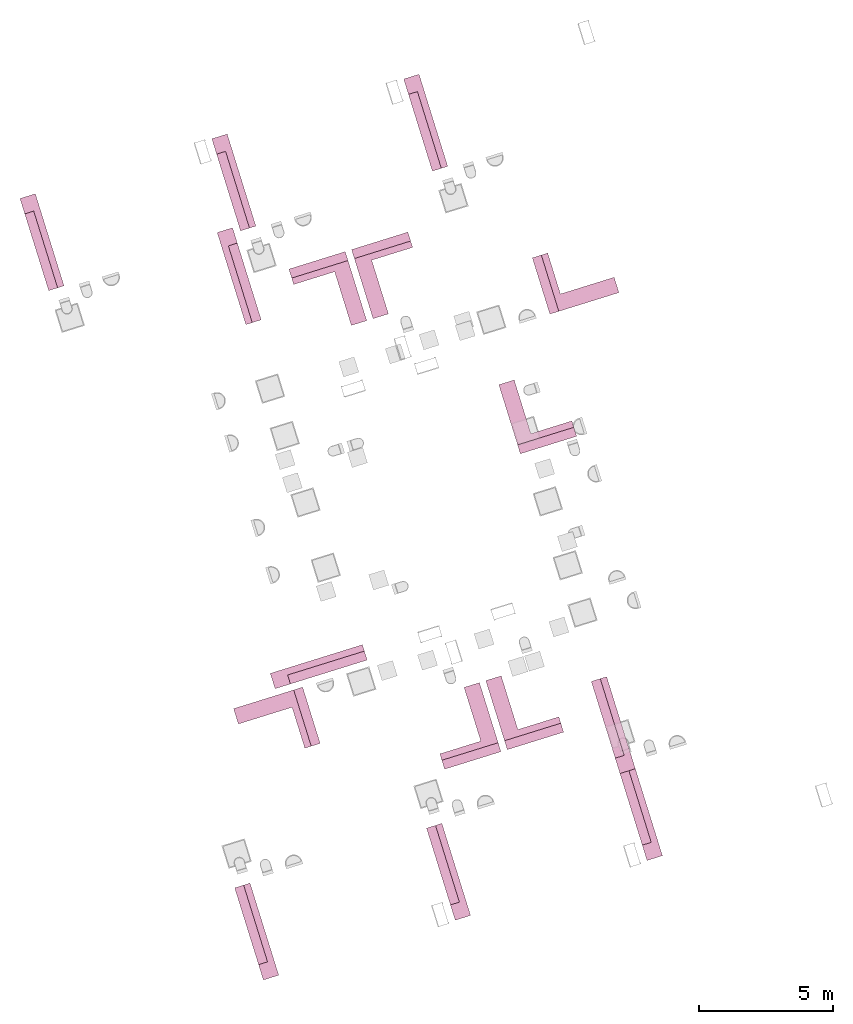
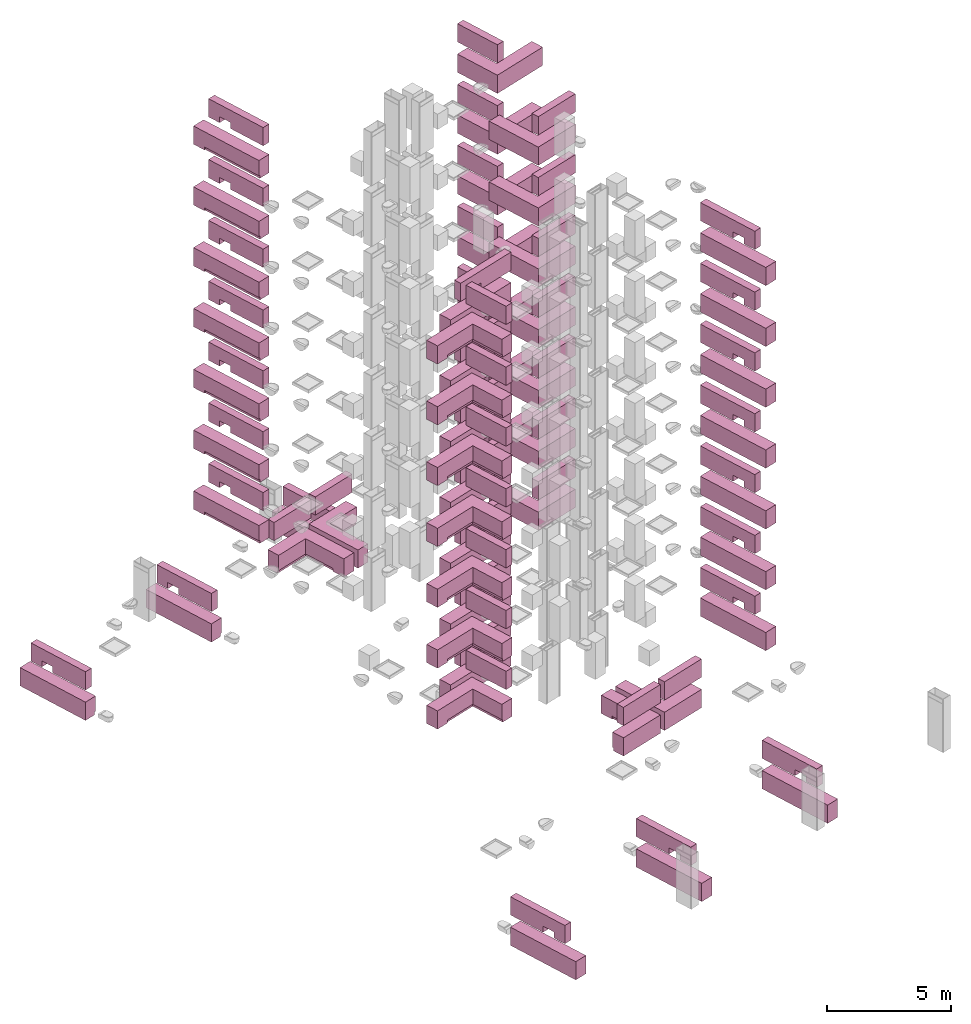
# Not in any storey, part 20 of 20: 52 furniture elements.
"""IFC4 model written with IfcOpenShell, lengths in metres."""

from ifc_helpers import new_model, entity, si_unit, converted_unit, direction, frame, origin, place, context, subcontext, project, indexed_curve, outline, extrude, polygons, source, transform, mapped, material, type_object, type_shapes, element, save


model = new_model("IFC4")

# Units and contexts
model_context = context("Model", 3, precision=1e-05, world=origin(), true_north=direction((6.12323399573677e-17, 1.0)))
body_context = subcontext(model_context, "Body", "Model", "MODEL_VIEW")
ifc_project = project(units=[si_unit("LENGTHUNIT", "METRE"), si_unit("AREAUNIT", "SQUARE_METRE"), si_unit("VOLUMEUNIT", "CUBIC_METRE"), converted_unit("PLANEANGLEUNIT", "DEGREE", entity("IfcPlaneAngleMeasure", 0.0174532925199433), si_unit("PLANEANGLEUNIT", "RADIAN"), dimensions=[0, 0, 0, 0, 0, 0, 0])], contexts=[model_context])

# Furniture
ifc_material = material(Name="<Unnamed>")
furniture_type_1 = type_object("IfcFurnitureType", Name="NLRS_73_CASE_LB_keukenblok L a_gen:keukenblok hoek 2700x2100", AssemblyPlace="NOTDEFINED", PredefinedType="NOTDEFINED", material=ifc_material)
shared_shape_1 = source(origin(), body_context, "Body", "Tessellation", [
    polygons([(0.549999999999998, 2.2, 0.0), (-1.75965908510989e-15, 2.2, 0.0), (-1.75965908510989e-15, 2.2, 0.899999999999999), (0.599999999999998, 2.2, 0.899999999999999), (0.599999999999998, 2.2, 0.15), (0.549999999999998, 2.2, 0.15), (0.55, 0.550000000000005, 0.0), (2.1, 0.550000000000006, 0.0), (2.1, 5.88809001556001e-15, 0.0), (-4.28634905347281e-16, 4.74882355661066e-15, 0.0), (-4.45554704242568e-16, 4.78266315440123e-15, 0.899999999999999), (2.1, 5.92192961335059e-15, 0.899999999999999), (2.1, 0.600000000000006, 0.899999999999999), (0.6, 0.600000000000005, 0.899999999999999), (0.6, 0.600000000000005, 0.15), (2.1, 0.550000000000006, 0.15), (2.1, 0.600000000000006, 0.15), (0.55, 0.550000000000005, 0.15)], [[[1, 2, 3, 4, 5, 6]], [[2, 1, 7, 8, 9, 10]], [[3, 2, 10, 11]], [[4, 3, 11, 12, 13, 14]], [[5, 4, 14, 15]], [[8, 16, 17, 13, 12, 9]], [[11, 10, 9, 12]], [[15, 14, 13, 17]], [[6, 5, 15, 17, 16, 18]], [[1, 6, 18, 7]], [[7, 18, 16, 8]]], closed=True),
    polygons([(2.7, 0.0, 0.899999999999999), (2.7, 0.599999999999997, 0.899999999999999), (2.1, 0.599999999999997, 0.899999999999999), (2.1, 0.0, 0.899999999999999), (2.7, 0.0, 0.0), (2.1, 0.0, 0.0), (2.1, 0.599999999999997, 0.0), (2.7, 0.599999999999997, 0.0)], [[[1, 2, 3, 4]], [[5, 6, 7, 8]], [[2, 1, 5, 8]], [[3, 2, 8, 7]], [[4, 3, 7, 6]], [[1, 4, 6, 5]]], closed=True),
    polygons([(7.03863634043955e-15, 1.54308565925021e-14, 1.5), (0.350000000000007, 1.0950194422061e-14, 1.5), (0.350000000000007, 1.0950194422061e-14, 2.4), (7.03863634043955e-15, 1.54308565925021e-14, 2.4), (0.350000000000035, 2.20000000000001, 1.5), (0.350000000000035, 2.20000000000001, 2.4), (3.51931817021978e-14, 2.20000000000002, 2.4), (3.51931817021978e-14, 2.20000000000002, 1.5)], [[[1, 2, 3, 4]], [[3, 2, 5, 6]], [[4, 3, 6, 7]], [[1, 4, 7, 8]], [[8, 7, 6, 5]], [[2, 1, 8, 5]]], closed=True),
])
type_shapes(furniture_type_1, [shared_shape_1])
placement_1 = place(None, frame((13.1347999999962, 11.9886000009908, 0.0), z_axis=(0.0, 0.0, 1.0), x_axis=(0.954770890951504, 0.297342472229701, 0.0)))
placement_2 = place(placement_1, origin())
placement_3 = place(placement_2, frame((0.0, 0.0, 6.9)))
placement_4 = place(placement_3, origin())
furniture_1_placement = place(placement_4, frame((9.77500000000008, 11.775, 0.0), z_axis=(0.0, 0.0, 1.0), x_axis=(-1.0, 0.0, 0.0)))
element("IfcFurniture", 1, at=furniture_1_placement, type_object=furniture_type_1, material=ifc_material, Name="NLRS_73_CASE_LB_keukenblok L a_gen:keukenblok hoek 2700x2100", ObjectType="NLRS_73_CASE_LB_keukenblok L a_gen:keukenblok hoek 2700x2100", PredefinedType="NOTDEFINED", context=body_context, shape_type="MappedRepresentation", body=[
    mapped(shared_shape_1, transform((0.0, 0.0, 0.0), scale=1.0)),
])
placement_5 = place(placement_2, frame((0.0, 0.0, 9.9)))
placement_6 = place(placement_5, origin())
furniture_2_placement = place(placement_6, frame((9.77500000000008, 11.775, 0.0), z_axis=(0.0, 0.0, 1.0), x_axis=(-1.0, 0.0, 0.0)))
element("IfcFurniture", 2, at=furniture_2_placement, type_object=furniture_type_1, material=ifc_material, Name="NLRS_73_CASE_LB_keukenblok L a_gen:keukenblok hoek 2700x2100", ObjectType="NLRS_73_CASE_LB_keukenblok L a_gen:keukenblok hoek 2700x2100", PredefinedType="NOTDEFINED", context=body_context, shape_type="MappedRepresentation", body=[
    mapped(shared_shape_1, transform((0.0, 0.0, 0.0), scale=1.0)),
])
placement_7 = place(placement_2, frame((0.0, 0.0, 12.9)))
placement_8 = place(placement_7, origin())
furniture_3_placement = place(placement_8, frame((9.77500000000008, 11.775, 0.0), z_axis=(0.0, 0.0, 1.0), x_axis=(-1.0, 0.0, 0.0)))
element("IfcFurniture", 3, at=furniture_3_placement, type_object=furniture_type_1, material=ifc_material, Name="NLRS_73_CASE_LB_keukenblok L a_gen:keukenblok hoek 2700x2100", ObjectType="NLRS_73_CASE_LB_keukenblok L a_gen:keukenblok hoek 2700x2100", PredefinedType="NOTDEFINED", context=body_context, shape_type="MappedRepresentation", body=[
    mapped(shared_shape_1, transform((0.0, 0.0, 0.0), scale=1.0)),
])
placement_9 = place(placement_2, frame((0.0, 0.0, 15.9)))
placement_10 = place(placement_9, origin())
furniture_4_placement = place(placement_10, frame((9.77500000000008, 11.775, 0.0), z_axis=(0.0, 0.0, 1.0), x_axis=(-1.0, 0.0, 0.0)))
element("IfcFurniture", 4, at=furniture_4_placement, type_object=furniture_type_1, material=ifc_material, Name="NLRS_73_CASE_LB_keukenblok L a_gen:keukenblok hoek 2700x2100", ObjectType="NLRS_73_CASE_LB_keukenblok L a_gen:keukenblok hoek 2700x2100", PredefinedType="NOTDEFINED", context=body_context, shape_type="MappedRepresentation", body=[
    mapped(shared_shape_1, transform((0.0, 0.0, 0.0), scale=1.0)),
])
placement_11 = place(placement_2, frame((0.0, 0.0, 18.9)))
placement_12 = place(placement_11, origin())
furniture_5_placement = place(placement_12, frame((9.77500000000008, 11.775, 0.0), z_axis=(0.0, 0.0, 1.0), x_axis=(-1.0, 0.0, 0.0)))
element("IfcFurniture", 5, at=furniture_5_placement, type_object=furniture_type_1, material=ifc_material, Name="NLRS_73_CASE_LB_keukenblok L a_gen:keukenblok hoek 2700x2100", ObjectType="NLRS_73_CASE_LB_keukenblok L a_gen:keukenblok hoek 2700x2100", PredefinedType="NOTDEFINED", context=body_context, shape_type="MappedRepresentation", body=[
    mapped(shared_shape_1, transform((0.0, 0.0, 0.0), scale=1.0)),
])
placement_13 = place(placement_2, frame((0.0, 0.0, 21.9)))
placement_14 = place(placement_13, origin())
furniture_6_placement = place(placement_14, frame((9.77500000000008, 11.775, 0.0), z_axis=(0.0, 0.0, 1.0), x_axis=(-1.0, 0.0, 0.0)))
element("IfcFurniture", 6, at=furniture_6_placement, type_object=furniture_type_1, material=ifc_material, Name="NLRS_73_CASE_LB_keukenblok L a_gen:keukenblok hoek 2700x2100", ObjectType="NLRS_73_CASE_LB_keukenblok L a_gen:keukenblok hoek 2700x2100", PredefinedType="NOTDEFINED", context=body_context, shape_type="MappedRepresentation", body=[
    mapped(shared_shape_1, transform((0.0, 0.0, 0.0), scale=1.0)),
])
placement_15 = place(placement_2, frame((0.0, 0.0, 24.9)))
placement_16 = place(placement_15, origin())
furniture_7_placement = place(placement_16, frame((9.77500000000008, 11.775, 0.0), z_axis=(0.0, 0.0, 1.0), x_axis=(-1.0, 0.0, 0.0)))
element("IfcFurniture", 7, at=furniture_7_placement, type_object=furniture_type_1, material=ifc_material, Name="NLRS_73_CASE_LB_keukenblok L a_gen:keukenblok hoek 2700x2100", ObjectType="NLRS_73_CASE_LB_keukenblok L a_gen:keukenblok hoek 2700x2100", PredefinedType="NOTDEFINED", context=body_context, shape_type="MappedRepresentation", body=[
    mapped(shared_shape_1, transform((0.0, 0.0, 0.0), scale=1.0)),
])
placement_17 = place(placement_3, origin())
furniture_8_placement = place(placement_17, frame((22.7250000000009, 22.3250000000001, 0.0)))
element("IfcFurniture", 8, at=furniture_8_placement, type_object=furniture_type_1, material=ifc_material, Name="NLRS_73_CASE_LB_keukenblok L a_gen:keukenblok hoek 2700x2100", ObjectType="NLRS_73_CASE_LB_keukenblok L a_gen:keukenblok hoek 2700x2100", PredefinedType="NOTDEFINED", context=body_context, shape_type="MappedRepresentation", body=[
    mapped(shared_shape_1, transform((0.0, 0.0, 0.0), scale=1.0)),
])
placement_18 = place(placement_5, origin())
furniture_9_placement = place(placement_18, frame((22.7250000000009, 22.3250000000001, 0.0)))
element("IfcFurniture", 9, at=furniture_9_placement, type_object=furniture_type_1, material=ifc_material, Name="NLRS_73_CASE_LB_keukenblok L a_gen:keukenblok hoek 2700x2100", ObjectType="NLRS_73_CASE_LB_keukenblok L a_gen:keukenblok hoek 2700x2100", PredefinedType="NOTDEFINED", context=body_context, shape_type="MappedRepresentation", body=[
    mapped(shared_shape_1, transform((0.0, 0.0, 0.0), scale=1.0)),
])
placement_19 = place(placement_7, origin())
furniture_10_placement = place(placement_19, frame((22.7250000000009, 22.3250000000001, 0.0)))
element("IfcFurniture", 10, at=furniture_10_placement, type_object=furniture_type_1, material=ifc_material, Name="NLRS_73_CASE_LB_keukenblok L a_gen:keukenblok hoek 2700x2100", ObjectType="NLRS_73_CASE_LB_keukenblok L a_gen:keukenblok hoek 2700x2100", PredefinedType="NOTDEFINED", context=body_context, shape_type="MappedRepresentation", body=[
    mapped(shared_shape_1, transform((0.0, 0.0, 0.0), scale=1.0)),
])
placement_20 = place(placement_9, origin())
furniture_11_placement = place(placement_20, frame((22.7250000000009, 22.3250000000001, 0.0)))
element("IfcFurniture", 11, at=furniture_11_placement, type_object=furniture_type_1, material=ifc_material, Name="NLRS_73_CASE_LB_keukenblok L a_gen:keukenblok hoek 2700x2100", ObjectType="NLRS_73_CASE_LB_keukenblok L a_gen:keukenblok hoek 2700x2100", PredefinedType="NOTDEFINED", context=body_context, shape_type="MappedRepresentation", body=[
    mapped(shared_shape_1, transform((0.0, 0.0, 0.0), scale=1.0)),
])
placement_21 = place(placement_11, origin())
furniture_12_placement = place(placement_21, frame((22.7250000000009, 22.3250000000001, 0.0)))
element("IfcFurniture", 12, at=furniture_12_placement, type_object=furniture_type_1, material=ifc_material, Name="NLRS_73_CASE_LB_keukenblok L a_gen:keukenblok hoek 2700x2100", ObjectType="NLRS_73_CASE_LB_keukenblok L a_gen:keukenblok hoek 2700x2100", PredefinedType="NOTDEFINED", context=body_context, shape_type="MappedRepresentation", body=[
    mapped(shared_shape_1, transform((0.0, 0.0, 0.0), scale=1.0)),
])
placement_22 = place(placement_13, origin())
furniture_13_placement = place(placement_22, frame((22.7250000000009, 22.3250000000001, 0.0)))
element("IfcFurniture", 13, at=furniture_13_placement, type_object=furniture_type_1, material=ifc_material, Name="NLRS_73_CASE_LB_keukenblok L a_gen:keukenblok hoek 2700x2100", ObjectType="NLRS_73_CASE_LB_keukenblok L a_gen:keukenblok hoek 2700x2100", PredefinedType="NOTDEFINED", context=body_context, shape_type="MappedRepresentation", body=[
    mapped(shared_shape_1, transform((0.0, 0.0, 0.0), scale=1.0)),
])
placement_23 = place(placement_15, origin())
furniture_14_placement = place(placement_23, frame((22.7250000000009, 22.3250000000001, 0.0)))
element("IfcFurniture", 14, at=furniture_14_placement, type_object=furniture_type_1, material=ifc_material, Name="NLRS_73_CASE_LB_keukenblok L a_gen:keukenblok hoek 2700x2100", ObjectType="NLRS_73_CASE_LB_keukenblok L a_gen:keukenblok hoek 2700x2100", PredefinedType="NOTDEFINED", context=body_context, shape_type="MappedRepresentation", body=[
    mapped(shared_shape_1, transform((0.0, 0.0, 0.0), scale=1.0)),
])
placement_24 = place(placement_2, frame((0.0, 0.0, 3.9)))
placement_25 = place(placement_24, origin())
furniture_15_placement = place(placement_25, frame((16.1250000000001, 7.27500000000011, 0.0), z_axis=(0.0, 0.0, 1.0), x_axis=(0.0, 1.0, 0.0)))
element("IfcFurniture", 15, at=furniture_15_placement, type_object=furniture_type_1, material=ifc_material, Name="NLRS_73_CASE_LB_keukenblok L a_gen:keukenblok hoek 2700x2100", ObjectType="NLRS_73_CASE_LB_keukenblok L a_gen:keukenblok hoek 2700x2100", PredefinedType="NOTDEFINED", context=body_context, shape_type="MappedRepresentation", body=[
    mapped(shared_shape_1, transform((0.0, 0.0, 0.0), scale=1.0)),
])
placement_26 = place(placement_24, origin())
furniture_16_placement = place(placement_26, frame((16.3750000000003, 26.8249999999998, 0.0), z_axis=(0.0, 0.0, 1.0), x_axis=(0.0, -1.0, 0.0)))
element("IfcFurniture", 16, at=furniture_16_placement, type_object=furniture_type_1, material=ifc_material, Name="NLRS_73_CASE_LB_keukenblok L a_gen:keukenblok hoek 2700x2100", ObjectType="NLRS_73_CASE_LB_keukenblok L a_gen:keukenblok hoek 2700x2100", PredefinedType="NOTDEFINED", context=body_context, shape_type="MappedRepresentation", body=[
    mapped(shared_shape_1, transform((0.0, 0.0, 0.0), scale=1.0)),
])
furniture_type_2 = type_object("IfcFurnitureType", Name="NLRS_73_CASE_LB_keukenblok a_gen:keukenblok 3200", AssemblyPlace="NOTDEFINED", PredefinedType="NOTDEFINED", material=ifc_material)
shared_shape_2 = source(origin(), body_context, "Body", "SweptSolid", [
    extrude(outline(indexed_curve([(-0.35, 0.166666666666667), (-0.35, -0.383333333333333), (0.55, -0.383333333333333), (0.55, 0.216666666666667), (-0.2, 0.216666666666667), (-0.2, 0.166666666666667), (-0.35, 0.166666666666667)], self_intersect=False)), frame((0.0, 0.383333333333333, 0.35), z_axis=(-1.0, 0.0, 0.0), x_axis=(0.0, 0.0, 1.0)), (0.0, 0.0, -1.0), 3.00000000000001),
    extrude(outline(indexed_curve([(-0.299999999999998, -0.3), (0.299999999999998, -0.3), (0.299999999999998, 0.3), (-0.299999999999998, 0.3), (-0.299999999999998, -0.3)], self_intersect=False)), frame((3.3, 0.299999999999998, 0.0), z_axis=(0.0, 0.0, 1.0), x_axis=(0.0, 1.0, 0.0)), (0.0, 0.0, 1.0), 0.9),
    extrude(outline(indexed_curve([(-1.19999999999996, -0.299999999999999), (-0.60000000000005, -0.299999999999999), (-0.60000000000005, -5.41433564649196e-16), (-5.00826047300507e-14, -5.41433564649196e-16), (-4.98118879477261e-14, -0.299999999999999), (1.80000000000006, -0.299999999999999), (1.80000000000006, 0.6), (-1.19999999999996, 0.6), (-1.19999999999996, -0.299999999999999)], self_intersect=False)), frame((1.80000000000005, 0.0, 1.8), z_axis=(0.0, 1.0, 0.0), x_axis=(-1.0, 0.0, 0.0)), (0.0, 0.0, 1.0), 0.349999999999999),
])
type_shapes(furniture_type_2, [shared_shape_2])
placement_27 = place(placement_2, origin())
placement_28 = place(placement_27, origin())
furniture_17_placement = place(placement_28, frame((12.6250000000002, 5.37499999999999, 0.0), z_axis=(0.0, 0.0, 1.0), x_axis=(0.0, -1.0, 0.0)))
element("IfcFurniture", 17, at=furniture_17_placement, type_object=furniture_type_2, material=ifc_material, Name="NLRS_73_CASE_LB_keukenblok a_gen:keukenblok 3200", ObjectType="NLRS_73_CASE_LB_keukenblok a_gen:keukenblok 3200", PredefinedType="NOTDEFINED", context=body_context, shape_type="MappedRepresentation", body=[
    mapped(shared_shape_2, transform((0.0, 0.0, 0.0), scale=1.0)),
])
placement_29 = place(placement_27, origin())
furniture_18_placement = place(placement_29, frame((5.12500000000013, 5.37500000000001, 0.0), z_axis=(0.0, 0.0, 1.0), x_axis=(0.0, -1.0, 0.0)))
element("IfcFurniture", 18, at=furniture_18_placement, type_object=furniture_type_2, material=ifc_material, Name="NLRS_73_CASE_LB_keukenblok a_gen:keukenblok 3200", ObjectType="NLRS_73_CASE_LB_keukenblok a_gen:keukenblok 3200", PredefinedType="NOTDEFINED", context=body_context, shape_type="MappedRepresentation", body=[
    mapped(shared_shape_2, transform((0.0, 0.0, 0.0), scale=1.0)),
])
placement_30 = place(placement_27, origin())
furniture_19_placement = place(placement_30, frame((20.1250000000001, 5.37499999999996, 0.0), z_axis=(0.0, 0.0, 1.0), x_axis=(0.0, -1.0, 0.0)))
element("IfcFurniture", 19, at=furniture_19_placement, type_object=furniture_type_2, material=ifc_material, Name="NLRS_73_CASE_LB_keukenblok a_gen:keukenblok 3200", ObjectType="NLRS_73_CASE_LB_keukenblok a_gen:keukenblok 3200", PredefinedType="NOTDEFINED", context=body_context, shape_type="MappedRepresentation", body=[
    mapped(shared_shape_2, transform((0.0, 0.0, 0.0), scale=1.0)),
])
placement_31 = place(placement_3, origin())
furniture_20_placement = place(placement_31, frame((20.1250000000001, 8.77499999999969, 0.0), z_axis=(0.0, 0.0, 1.0), x_axis=(0.0, -1.0, 0.0)))
element("IfcFurniture", 20, at=furniture_20_placement, type_object=furniture_type_2, material=ifc_material, Name="NLRS_73_CASE_LB_keukenblok a_gen:keukenblok 3200", ObjectType="NLRS_73_CASE_LB_keukenblok a_gen:keukenblok 3200", PredefinedType="NOTDEFINED", context=body_context, shape_type="MappedRepresentation", body=[
    mapped(shared_shape_2, transform((0.0, 0.0, 0.0), scale=1.0)),
])
placement_32 = place(placement_5, origin())
furniture_21_placement = place(placement_32, frame((20.1250000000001, 8.77499999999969, 0.0), z_axis=(0.0, 0.0, 1.0), x_axis=(0.0, -1.0, 0.0)))
element("IfcFurniture", 21, at=furniture_21_placement, type_object=furniture_type_2, material=ifc_material, Name="NLRS_73_CASE_LB_keukenblok a_gen:keukenblok 3200", ObjectType="NLRS_73_CASE_LB_keukenblok a_gen:keukenblok 3200", PredefinedType="NOTDEFINED", context=body_context, shape_type="MappedRepresentation", body=[
    mapped(shared_shape_2, transform((0.0, 0.0, 0.0), scale=1.0)),
])
placement_33 = place(placement_7, origin())
furniture_22_placement = place(placement_33, frame((20.1250000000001, 8.77499999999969, 0.0), z_axis=(0.0, 0.0, 1.0), x_axis=(0.0, -1.0, 0.0)))
element("IfcFurniture", 22, at=furniture_22_placement, type_object=furniture_type_2, material=ifc_material, Name="NLRS_73_CASE_LB_keukenblok a_gen:keukenblok 3200", ObjectType="NLRS_73_CASE_LB_keukenblok a_gen:keukenblok 3200", PredefinedType="NOTDEFINED", context=body_context, shape_type="MappedRepresentation", body=[
    mapped(shared_shape_2, transform((0.0, 0.0, 0.0), scale=1.0)),
])
placement_34 = place(placement_9, origin())
furniture_23_placement = place(placement_34, frame((20.1250000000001, 8.77499999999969, 0.0), z_axis=(0.0, 0.0, 1.0), x_axis=(0.0, -1.0, 0.0)))
element("IfcFurniture", 23, at=furniture_23_placement, type_object=furniture_type_2, material=ifc_material, Name="NLRS_73_CASE_LB_keukenblok a_gen:keukenblok 3200", ObjectType="NLRS_73_CASE_LB_keukenblok a_gen:keukenblok 3200", PredefinedType="NOTDEFINED", context=body_context, shape_type="MappedRepresentation", body=[
    mapped(shared_shape_2, transform((0.0, 0.0, 0.0), scale=1.0)),
])
placement_35 = place(placement_11, origin())
furniture_24_placement = place(placement_35, frame((20.1250000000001, 8.77499999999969, 0.0), z_axis=(0.0, 0.0, 1.0), x_axis=(0.0, -1.0, 0.0)))
element("IfcFurniture", 24, at=furniture_24_placement, type_object=furniture_type_2, material=ifc_material, Name="NLRS_73_CASE_LB_keukenblok a_gen:keukenblok 3200", ObjectType="NLRS_73_CASE_LB_keukenblok a_gen:keukenblok 3200", PredefinedType="NOTDEFINED", context=body_context, shape_type="MappedRepresentation", body=[
    mapped(shared_shape_2, transform((0.0, 0.0, 0.0), scale=1.0)),
])
placement_36 = place(placement_13, origin())
furniture_25_placement = place(placement_36, frame((20.1250000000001, 8.77499999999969, 0.0), z_axis=(0.0, 0.0, 1.0), x_axis=(0.0, -1.0, 0.0)))
element("IfcFurniture", 25, at=furniture_25_placement, type_object=furniture_type_2, material=ifc_material, Name="NLRS_73_CASE_LB_keukenblok a_gen:keukenblok 3200", ObjectType="NLRS_73_CASE_LB_keukenblok a_gen:keukenblok 3200", PredefinedType="NOTDEFINED", context=body_context, shape_type="MappedRepresentation", body=[
    mapped(shared_shape_2, transform((0.0, 0.0, 0.0), scale=1.0)),
])
placement_37 = place(placement_15, origin())
furniture_26_placement = place(placement_37, frame((20.1250000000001, 8.77499999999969, 0.0), z_axis=(0.0, 0.0, 1.0), x_axis=(0.0, -1.0, 0.0)))
element("IfcFurniture", 26, at=furniture_26_placement, type_object=furniture_type_2, material=ifc_material, Name="NLRS_73_CASE_LB_keukenblok a_gen:keukenblok 3200", ObjectType="NLRS_73_CASE_LB_keukenblok a_gen:keukenblok 3200", PredefinedType="NOTDEFINED", context=body_context, shape_type="MappedRepresentation", body=[
    mapped(shared_shape_2, transform((0.0, 0.0, 0.0), scale=1.0)),
])
placement_38 = place(placement_3, origin())
furniture_27_placement = place(placement_38, frame((12.3750000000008, 25.3250000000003, 0.0), z_axis=(0.0, 0.0, 1.0), x_axis=(0.0, 1.0, 0.0)))
element("IfcFurniture", 27, at=furniture_27_placement, type_object=furniture_type_2, material=ifc_material, Name="NLRS_73_CASE_LB_keukenblok a_gen:keukenblok 3200", ObjectType="NLRS_73_CASE_LB_keukenblok a_gen:keukenblok 3200", PredefinedType="NOTDEFINED", context=body_context, shape_type="MappedRepresentation", body=[
    mapped(shared_shape_2, transform((0.0, 0.0, 0.0), scale=1.0)),
])
placement_39 = place(placement_5, origin())
furniture_28_placement = place(placement_39, frame((12.3750000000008, 25.3250000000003, 0.0), z_axis=(0.0, 0.0, 1.0), x_axis=(0.0, 1.0, 0.0)))
element("IfcFurniture", 28, at=furniture_28_placement, type_object=furniture_type_2, material=ifc_material, Name="NLRS_73_CASE_LB_keukenblok a_gen:keukenblok 3200", ObjectType="NLRS_73_CASE_LB_keukenblok a_gen:keukenblok 3200", PredefinedType="NOTDEFINED", context=body_context, shape_type="MappedRepresentation", body=[
    mapped(shared_shape_2, transform((0.0, 0.0, 0.0), scale=1.0)),
])
placement_40 = place(placement_7, origin())
furniture_29_placement = place(placement_40, frame((12.3750000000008, 25.3250000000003, 0.0), z_axis=(0.0, 0.0, 1.0), x_axis=(0.0, 1.0, 0.0)))
element("IfcFurniture", 29, at=furniture_29_placement, type_object=furniture_type_2, material=ifc_material, Name="NLRS_73_CASE_LB_keukenblok a_gen:keukenblok 3200", ObjectType="NLRS_73_CASE_LB_keukenblok a_gen:keukenblok 3200", PredefinedType="NOTDEFINED", context=body_context, shape_type="MappedRepresentation", body=[
    mapped(shared_shape_2, transform((0.0, 0.0, 0.0), scale=1.0)),
])
placement_41 = place(placement_9, origin())
furniture_30_placement = place(placement_41, frame((12.3750000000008, 25.3250000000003, 0.0), z_axis=(0.0, 0.0, 1.0), x_axis=(0.0, 1.0, 0.0)))
element("IfcFurniture", 30, at=furniture_30_placement, type_object=furniture_type_2, material=ifc_material, Name="NLRS_73_CASE_LB_keukenblok a_gen:keukenblok 3200", ObjectType="NLRS_73_CASE_LB_keukenblok a_gen:keukenblok 3200", PredefinedType="NOTDEFINED", context=body_context, shape_type="MappedRepresentation", body=[
    mapped(shared_shape_2, transform((0.0, 0.0, 0.0), scale=1.0)),
])
placement_42 = place(placement_11, origin())
furniture_31_placement = place(placement_42, frame((12.3750000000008, 25.3250000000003, 0.0), z_axis=(0.0, 0.0, 1.0), x_axis=(0.0, 1.0, 0.0)))
element("IfcFurniture", 31, at=furniture_31_placement, type_object=furniture_type_2, material=ifc_material, Name="NLRS_73_CASE_LB_keukenblok a_gen:keukenblok 3200", ObjectType="NLRS_73_CASE_LB_keukenblok a_gen:keukenblok 3200", PredefinedType="NOTDEFINED", context=body_context, shape_type="MappedRepresentation", body=[
    mapped(shared_shape_2, transform((0.0, 0.0, 0.0), scale=1.0)),
])
placement_43 = place(placement_13, origin())
furniture_32_placement = place(placement_43, frame((12.3750000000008, 25.3250000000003, 0.0), z_axis=(0.0, 0.0, 1.0), x_axis=(0.0, 1.0, 0.0)))
element("IfcFurniture", 32, at=furniture_32_placement, type_object=furniture_type_2, material=ifc_material, Name="NLRS_73_CASE_LB_keukenblok a_gen:keukenblok 3200", ObjectType="NLRS_73_CASE_LB_keukenblok a_gen:keukenblok 3200", PredefinedType="NOTDEFINED", context=body_context, shape_type="MappedRepresentation", body=[
    mapped(shared_shape_2, transform((0.0, 0.0, 0.0), scale=1.0)),
])
placement_44 = place(placement_15, origin())
furniture_33_placement = place(placement_44, frame((12.3750000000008, 25.3250000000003, 0.0), z_axis=(0.0, 0.0, 1.0), x_axis=(0.0, 1.0, 0.0)))
element("IfcFurniture", 33, at=furniture_33_placement, type_object=furniture_type_2, material=ifc_material, Name="NLRS_73_CASE_LB_keukenblok a_gen:keukenblok 3200", ObjectType="NLRS_73_CASE_LB_keukenblok a_gen:keukenblok 3200", PredefinedType="NOTDEFINED", context=body_context, shape_type="MappedRepresentation", body=[
    mapped(shared_shape_2, transform((0.0, 0.0, 0.0), scale=1.0)),
])
shared_shape_3 = source(origin(), body_context, "Body", "SweptSolid", [
    extrude(outline(indexed_curve([(-0.166666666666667, -0.35), (0.383333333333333, -0.35), (0.383333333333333, 0.55), (-0.216666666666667, 0.55), (-0.216666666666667, -0.2), (-0.166666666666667, -0.2), (-0.166666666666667, -0.35)], self_intersect=False)), frame((0.0, -0.383333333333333, 0.35), z_axis=(1.0, 0.0, 0.0), x_axis=(0.0, 1.0, 0.0)), (0.0, 0.0, 1.0), 3.00000000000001),
    extrude(outline(indexed_curve([(-0.3, -0.299999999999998), (0.3, -0.299999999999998), (0.3, 0.299999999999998), (-0.3, 0.299999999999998), (-0.3, -0.299999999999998)], self_intersect=False)), frame((3.3, -0.299999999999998, 0.0), z_axis=(0.0, 0.0, 1.0), x_axis=(-1.0, 0.0, 0.0)), (0.0, 0.0, 1.0), 0.9),
    extrude(outline(indexed_curve([(-0.6, -1.19999999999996), (0.299999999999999, -1.19999999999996), (0.299999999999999, -0.600000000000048), (5.41433564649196e-16, -0.600000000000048), (5.41433564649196e-16, -4.81875872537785e-14), (0.299999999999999, -4.81875872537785e-14), (0.299999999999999, 1.80000000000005), (-0.6, 1.80000000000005), (-0.6, -1.19999999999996)], self_intersect=False)), frame((1.80000000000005, -0.34999999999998, 1.8), z_axis=(0.0, 1.0, 0.0), x_axis=(0.0, 0.0, -1.0)), (0.0, 0.0, 1.0), 0.349999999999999),
])
placement_45 = place(placement_27, origin())
furniture_34_placement = place(placement_45, frame((12.6250000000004, 28.7250000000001, 0.0), z_axis=(0.0, 0.0, 1.0), x_axis=(0.0, 1.0, 0.0)))
element("IfcFurniture", 34, at=furniture_34_placement, type_object=furniture_type_2, material=ifc_material, Name="NLRS_73_CASE_LB_keukenblok a_gen:keukenblok 3200", ObjectType="NLRS_73_CASE_LB_keukenblok a_gen:keukenblok 3200", PredefinedType="NOTDEFINED", context=body_context, shape_type="MappedRepresentation", body=[
    mapped(shared_shape_3, transform((0.0, 0.0, 0.0), scale=1.0)),
])
placement_46 = place(placement_27, origin())
furniture_35_placement = place(placement_46, frame((5.12500000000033, 28.7250000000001, 0.0), z_axis=(0.0, 0.0, 1.0), x_axis=(0.0, 1.0, 0.0)))
element("IfcFurniture", 35, at=furniture_35_placement, type_object=furniture_type_2, material=ifc_material, Name="NLRS_73_CASE_LB_keukenblok a_gen:keukenblok 3200", ObjectType="NLRS_73_CASE_LB_keukenblok a_gen:keukenblok 3200", PredefinedType="NOTDEFINED", context=body_context, shape_type="MappedRepresentation", body=[
    mapped(shared_shape_3, transform((0.0, 0.0, 0.0), scale=1.0)),
])
placement_47 = place(placement_27, origin())
furniture_36_placement = place(placement_47, frame((20.1250000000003, 28.7250000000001, 0.0), z_axis=(0.0, 0.0, 1.0), x_axis=(0.0, 1.0, 0.0)))
element("IfcFurniture", 36, at=furniture_36_placement, type_object=furniture_type_2, material=ifc_material, Name="NLRS_73_CASE_LB_keukenblok a_gen:keukenblok 3200", ObjectType="NLRS_73_CASE_LB_keukenblok a_gen:keukenblok 3200", PredefinedType="NOTDEFINED", context=body_context, shape_type="MappedRepresentation", body=[
    mapped(shared_shape_3, transform((0.0, 0.0, 0.0), scale=1.0)),
])
placement_48 = place(placement_3, origin())
furniture_37_placement = place(placement_48, frame((12.3750000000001, 12.0249999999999, 0.0), z_axis=(0.0, 0.0, 1.0), x_axis=(-1.0, 0.0, 0.0)))
element("IfcFurniture", 37, at=furniture_37_placement, type_object=furniture_type_2, material=ifc_material, Name="NLRS_73_CASE_LB_keukenblok a_gen:keukenblok 3200", ObjectType="NLRS_73_CASE_LB_keukenblok a_gen:keukenblok 3200", PredefinedType="NOTDEFINED", context=body_context, shape_type="MappedRepresentation", body=[
    mapped(shared_shape_3, transform((0.0, 0.0, 0.0), scale=1.0)),
])
placement_49 = place(placement_5, origin())
furniture_38_placement = place(placement_49, frame((12.3750000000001, 12.0249999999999, 0.0), z_axis=(0.0, 0.0, 1.0), x_axis=(-1.0, 0.0, 0.0)))
element("IfcFurniture", 38, at=furniture_38_placement, type_object=furniture_type_2, material=ifc_material, Name="NLRS_73_CASE_LB_keukenblok a_gen:keukenblok 3200", ObjectType="NLRS_73_CASE_LB_keukenblok a_gen:keukenblok 3200", PredefinedType="NOTDEFINED", context=body_context, shape_type="MappedRepresentation", body=[
    mapped(shared_shape_3, transform((0.0, 0.0, 0.0), scale=1.0)),
])
placement_50 = place(placement_7, origin())
furniture_39_placement = place(placement_50, frame((12.3750000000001, 12.0249999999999, 0.0), z_axis=(0.0, 0.0, 1.0), x_axis=(-1.0, 0.0, 0.0)))
element("IfcFurniture", 39, at=furniture_39_placement, type_object=furniture_type_2, material=ifc_material, Name="NLRS_73_CASE_LB_keukenblok a_gen:keukenblok 3200", ObjectType="NLRS_73_CASE_LB_keukenblok a_gen:keukenblok 3200", PredefinedType="NOTDEFINED", context=body_context, shape_type="MappedRepresentation", body=[
    mapped(shared_shape_3, transform((0.0, 0.0, 0.0), scale=1.0)),
])
placement_51 = place(placement_9, origin())
furniture_40_placement = place(placement_51, frame((12.3750000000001, 12.0249999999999, 0.0), z_axis=(0.0, 0.0, 1.0), x_axis=(-1.0, 0.0, 0.0)))
element("IfcFurniture", 40, at=furniture_40_placement, type_object=furniture_type_2, material=ifc_material, Name="NLRS_73_CASE_LB_keukenblok a_gen:keukenblok 3200", ObjectType="NLRS_73_CASE_LB_keukenblok a_gen:keukenblok 3200", PredefinedType="NOTDEFINED", context=body_context, shape_type="MappedRepresentation", body=[
    mapped(shared_shape_3, transform((0.0, 0.0, 0.0), scale=1.0)),
])
placement_52 = place(placement_11, origin())
furniture_41_placement = place(placement_52, frame((12.3750000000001, 12.0249999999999, 0.0), z_axis=(0.0, 0.0, 1.0), x_axis=(-1.0, 0.0, 0.0)))
element("IfcFurniture", 41, at=furniture_41_placement, type_object=furniture_type_2, material=ifc_material, Name="NLRS_73_CASE_LB_keukenblok a_gen:keukenblok 3200", ObjectType="NLRS_73_CASE_LB_keukenblok a_gen:keukenblok 3200", PredefinedType="NOTDEFINED", context=body_context, shape_type="MappedRepresentation", body=[
    mapped(shared_shape_3, transform((0.0, 0.0, 0.0), scale=1.0)),
])
placement_53 = place(placement_13, origin())
furniture_42_placement = place(placement_53, frame((12.3750000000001, 12.0249999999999, 0.0), z_axis=(0.0, 0.0, 1.0), x_axis=(-1.0, 0.0, 0.0)))
element("IfcFurniture", 42, at=furniture_42_placement, type_object=furniture_type_2, material=ifc_material, Name="NLRS_73_CASE_LB_keukenblok a_gen:keukenblok 3200", ObjectType="NLRS_73_CASE_LB_keukenblok a_gen:keukenblok 3200", PredefinedType="NOTDEFINED", context=body_context, shape_type="MappedRepresentation", body=[
    mapped(shared_shape_3, transform((0.0, 0.0, 0.0), scale=1.0)),
])
placement_54 = place(placement_15, origin())
furniture_43_placement = place(placement_54, frame((12.3750000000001, 12.0249999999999, 0.0), z_axis=(0.0, 0.0, 1.0), x_axis=(-1.0, 0.0, 0.0)))
element("IfcFurniture", 43, at=furniture_43_placement, type_object=furniture_type_2, material=ifc_material, Name="NLRS_73_CASE_LB_keukenblok a_gen:keukenblok 3200", ObjectType="NLRS_73_CASE_LB_keukenblok a_gen:keukenblok 3200", PredefinedType="NOTDEFINED", context=body_context, shape_type="MappedRepresentation", body=[
    mapped(shared_shape_3, transform((0.0, 0.0, 0.0), scale=1.0)),
])
shared_shape_4 = source(origin(), body_context, "Body", "Tessellation", [
    polygons([(0.549999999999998, -2.2, 0.0), (0.549999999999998, -2.2, 0.15), (0.599999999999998, -2.2, 0.15), (0.599999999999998, -2.2, 0.899999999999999), (-1.75965908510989e-15, -2.2, 0.899999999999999), (-1.75965908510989e-15, -2.2, 0.0), (-4.28634905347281e-16, -4.74882355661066e-15, 0.0), (2.1, -5.88809001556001e-15, 0.0), (2.1, -0.550000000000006, 0.0), (0.55, -0.550000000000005, 0.0), (-4.45554704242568e-16, -4.78266315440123e-15, 0.899999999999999), (0.6, -0.600000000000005, 0.899999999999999), (2.1, -0.600000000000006, 0.899999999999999), (2.1, -5.92192961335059e-15, 0.899999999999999), (0.6, -0.600000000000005, 0.15), (2.1, -0.600000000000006, 0.15), (2.1, -0.550000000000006, 0.15), (0.55, -0.550000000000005, 0.15)], [[[1, 2, 3, 4, 5, 6]], [[6, 7, 8, 9, 10, 1]], [[5, 11, 7, 6]], [[4, 12, 13, 14, 11, 5]], [[3, 15, 12, 4]], [[9, 8, 14, 13, 16, 17]], [[11, 14, 8, 7]], [[15, 16, 13, 12]], [[2, 18, 17, 16, 15, 3]], [[1, 10, 18, 2]], [[10, 9, 17, 18]]], closed=True),
    polygons([(2.7, 0.0, 0.899999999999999), (2.1, 0.0, 0.899999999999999), (2.1, -0.599999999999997, 0.899999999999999), (2.7, -0.599999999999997, 0.899999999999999), (2.7, 0.0, 0.0), (2.7, -0.599999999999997, 0.0), (2.1, -0.599999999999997, 0.0), (2.1, 0.0, 0.0)], [[[1, 2, 3, 4]], [[5, 6, 7, 8]], [[4, 6, 5, 1]], [[3, 7, 6, 4]], [[2, 8, 7, 3]], [[1, 5, 8, 2]]], closed=True),
    polygons([(7.03863634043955e-15, -1.54308565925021e-14, 1.5), (7.03863634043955e-15, -1.54308565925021e-14, 2.4), (0.350000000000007, -1.0950194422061e-14, 2.4), (0.350000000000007, -1.0950194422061e-14, 1.5), (0.350000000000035, -2.20000000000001, 2.4), (0.350000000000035, -2.20000000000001, 1.5), (3.51931817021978e-14, -2.20000000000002, 2.4), (3.51931817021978e-14, -2.20000000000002, 1.5)], [[[1, 2, 3, 4]], [[3, 5, 6, 4]], [[2, 7, 5, 3]], [[1, 8, 7, 2]], [[8, 6, 5, 7]], [[4, 6, 8, 1]]], closed=True),
])
placement_55 = place(placement_3, origin())
furniture_44_placement = place(placement_55, frame((20.1228357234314, 17.675, 0.0), z_axis=(0.0, 0.0, 1.0), x_axis=(0.0, 1.0, 0.0)))
element("IfcFurniture", 44, at=furniture_44_placement, type_object=furniture_type_1, material=ifc_material, Name="NLRS_73_CASE_LB_keukenblok L a_gen:keukenblok hoek 2700x2100", ObjectType="NLRS_73_CASE_LB_keukenblok L a_gen:keukenblok hoek 2700x2100", PredefinedType="NOTDEFINED", context=body_context, shape_type="MappedRepresentation", body=[
    mapped(shared_shape_4, transform((0.0, 0.0, 0.0), scale=1.0)),
])
placement_56 = place(placement_5, origin())
furniture_45_placement = place(placement_56, frame((20.1228357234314, 17.675, 0.0), z_axis=(0.0, 0.0, 1.0), x_axis=(0.0, 1.0, 0.0)))
element("IfcFurniture", 45, at=furniture_45_placement, type_object=furniture_type_1, material=ifc_material, Name="NLRS_73_CASE_LB_keukenblok L a_gen:keukenblok hoek 2700x2100", ObjectType="NLRS_73_CASE_LB_keukenblok L a_gen:keukenblok hoek 2700x2100", PredefinedType="NOTDEFINED", context=body_context, shape_type="MappedRepresentation", body=[
    mapped(shared_shape_4, transform((0.0, 0.0, 0.0), scale=1.0)),
])
placement_57 = place(placement_7, origin())
furniture_46_placement = place(placement_57, frame((20.1228357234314, 17.675, 0.0), z_axis=(0.0, 0.0, 1.0), x_axis=(0.0, 1.0, 0.0)))
element("IfcFurniture", 46, at=furniture_46_placement, type_object=furniture_type_1, material=ifc_material, Name="NLRS_73_CASE_LB_keukenblok L a_gen:keukenblok hoek 2700x2100", ObjectType="NLRS_73_CASE_LB_keukenblok L a_gen:keukenblok hoek 2700x2100", PredefinedType="NOTDEFINED", context=body_context, shape_type="MappedRepresentation", body=[
    mapped(shared_shape_4, transform((0.0, 0.0, 0.0), scale=1.0)),
])
placement_58 = place(placement_9, origin())
furniture_47_placement = place(placement_58, frame((20.1228357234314, 17.675, 0.0), z_axis=(0.0, 0.0, 1.0), x_axis=(0.0, 1.0, 0.0)))
element("IfcFurniture", 47, at=furniture_47_placement, type_object=furniture_type_1, material=ifc_material, Name="NLRS_73_CASE_LB_keukenblok L a_gen:keukenblok hoek 2700x2100", ObjectType="NLRS_73_CASE_LB_keukenblok L a_gen:keukenblok hoek 2700x2100", PredefinedType="NOTDEFINED", context=body_context, shape_type="MappedRepresentation", body=[
    mapped(shared_shape_4, transform((0.0, 0.0, 0.0), scale=1.0)),
])
placement_59 = place(placement_11, origin())
furniture_48_placement = place(placement_59, frame((20.1228357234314, 17.675, 0.0), z_axis=(0.0, 0.0, 1.0), x_axis=(0.0, 1.0, 0.0)))
element("IfcFurniture", 48, at=furniture_48_placement, type_object=furniture_type_1, material=ifc_material, Name="NLRS_73_CASE_LB_keukenblok L a_gen:keukenblok hoek 2700x2100", ObjectType="NLRS_73_CASE_LB_keukenblok L a_gen:keukenblok hoek 2700x2100", PredefinedType="NOTDEFINED", context=body_context, shape_type="MappedRepresentation", body=[
    mapped(shared_shape_4, transform((0.0, 0.0, 0.0), scale=1.0)),
])
placement_60 = place(placement_13, origin())
furniture_49_placement = place(placement_60, frame((20.1228357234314, 17.675, 0.0), z_axis=(0.0, 0.0, 1.0), x_axis=(0.0, 1.0, 0.0)))
element("IfcFurniture", 49, at=furniture_49_placement, type_object=furniture_type_1, material=ifc_material, Name="NLRS_73_CASE_LB_keukenblok L a_gen:keukenblok hoek 2700x2100", ObjectType="NLRS_73_CASE_LB_keukenblok L a_gen:keukenblok hoek 2700x2100", PredefinedType="NOTDEFINED", context=body_context, shape_type="MappedRepresentation", body=[
    mapped(shared_shape_4, transform((0.0, 0.0, 0.0), scale=1.0)),
])
placement_61 = place(placement_15, origin())
furniture_50_placement = place(placement_61, frame((20.1228357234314, 17.675, 0.0), z_axis=(0.0, 0.0, 1.0), x_axis=(0.0, 1.0, 0.0)))
element("IfcFurniture", 50, at=furniture_50_placement, type_object=furniture_type_1, material=ifc_material, Name="NLRS_73_CASE_LB_keukenblok L a_gen:keukenblok hoek 2700x2100", ObjectType="NLRS_73_CASE_LB_keukenblok L a_gen:keukenblok hoek 2700x2100", PredefinedType="NOTDEFINED", context=body_context, shape_type="MappedRepresentation", body=[
    mapped(shared_shape_4, transform((0.0, 0.0, 0.0), scale=1.0)),
])
placement_62 = place(placement_24, origin())
furniture_51_placement = place(placement_62, frame((16.1250000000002, 26.8249999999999, 0.0), z_axis=(0.0, 0.0, 1.0), x_axis=(0.0, -1.0, 0.0)))
element("IfcFurniture", 51, at=furniture_51_placement, type_object=furniture_type_1, material=ifc_material, Name="NLRS_73_CASE_LB_keukenblok L a_gen:keukenblok hoek 2700x2100", ObjectType="NLRS_73_CASE_LB_keukenblok L a_gen:keukenblok hoek 2700x2100", PredefinedType="NOTDEFINED", context=body_context, shape_type="MappedRepresentation", body=[
    mapped(shared_shape_4, transform((0.0, 0.0, 0.0), scale=1.0)),
])
placement_63 = place(placement_24, origin())
furniture_52_placement = place(placement_63, frame((16.3750000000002, 7.27500000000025, 0.0), z_axis=(0.0, 0.0, 1.0), x_axis=(0.0, 1.0, 0.0)))
element("IfcFurniture", 52, at=furniture_52_placement, type_object=furniture_type_1, material=ifc_material, Name="NLRS_73_CASE_LB_keukenblok L a_gen:keukenblok hoek 2700x2100", ObjectType="NLRS_73_CASE_LB_keukenblok L a_gen:keukenblok hoek 2700x2100", PredefinedType="NOTDEFINED", context=body_context, shape_type="MappedRepresentation", body=[
    mapped(shared_shape_4, transform((0.0, 0.0, 0.0), scale=1.0)),
])

save(model, "model.ifc")
